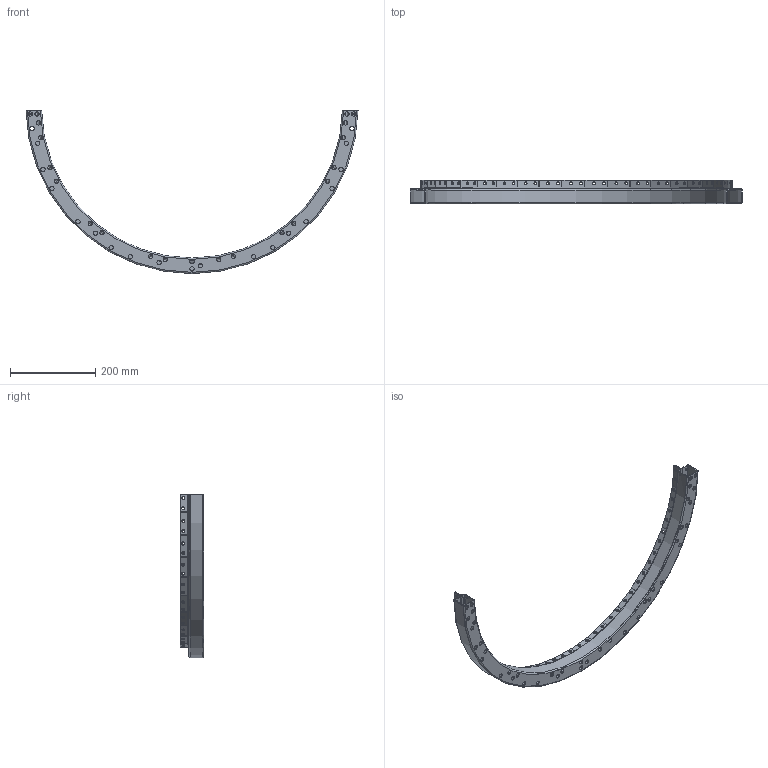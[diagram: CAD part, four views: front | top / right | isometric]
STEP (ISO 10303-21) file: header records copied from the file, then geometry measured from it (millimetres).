
FILE_DESCRIPTION(/* description */ (''),/* implementation_level */ '2;1');
FILE_NAME(/* name */ 'W5-part_29_dwg.stp',/* time_stamp */ '2015-07-06T10:05:51+02:00',/* author */ (''),/* organization */ (''),/* preprocessor_version */ 'ST-DEVELOPER v15',/* originating_system */ 'SIEMENS PLM Software NX 8.5',/* authorisation */ '');
FILE_SCHEMA (('AP203_CONFIGURATION_CONTROLLED_3D_DESIGN_OF_MECHANICAL_PARTS_AND_ASSEMBLIES_MIM_LF { 1 0 10303 403 2 1 2}'));
Length unit declared in the file: millimetre
Products named in the file (1): turc1A2C864720gd
Bounding box: 777.89 x 55 x 382.5 mm (x, y, z)
Volume: 374179.9 mm3; surface area: 385841.5 mm2
Topology: 1 solids, 1 shells, 480 faces, 1364 edges, 883 vertices
Faces by surface type: cylinder 298, plane 94, torus 48, sphere 40
Full cylindrical faces by diameter (mm): 4.5 x4, 7 x84, 10 x42
Entity records: 15073 total; most frequent: CARTESIAN_POINT 2854, DIRECTION 2686, ORIENTED_EDGE 2208, AXIS2_PLACEMENT_3D 1121, EDGE_CURVE 1104, EDGE_LOOP 870, VERTEX_POINT 756, CIRCLE 632
